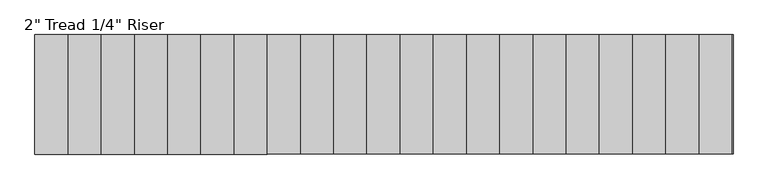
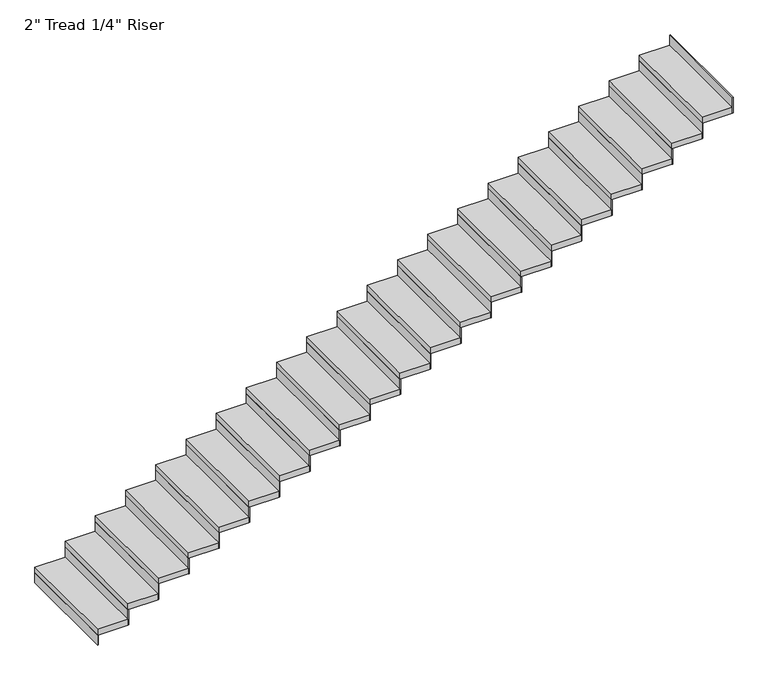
"""IFC4 building model written with IfcOpenShell, lengths in millimetres: stair flight geometry."""

from ifc_helpers import new_model, si_unit, frame, origin, origin_with_axes, place, context, project, spatial, polyline, outline, extrude, source, transform, mapped, element, save


def stair_flight_49b249d5(model_context):
    return source(origin(), model_context, "Body", "SweptSolid", [
        extrude(outline(polyline([(-14491.9069957, 34007.0395941), (-14498.2569957, 34007.0395941), (-14498.2569957, 34921.4395941), (-14491.9069957, 34921.4395941), (-14491.9069957, 34007.0395941)])), origin_with_axes(), (0.0, 0.0, 1.0), 87.7454545),
        extrude(outline(polyline([(-14244.2569957, 34921.4395941), (-14244.2569957, 34007.0395941), (-14498.2569957, 34007.0395941), (-14498.2569957, 34921.4395941), (-14244.2569957, 34921.4395941)])), frame((0.0, 0.0, 87.7454545), z_axis=(0.0, 0.0, 1.0), x_axis=(1.0, 0.0, 0.0)), (0.0, 0.0, 1.0), 50.8),
        extrude(outline(polyline([(-14237.9069957, 34007.0395941), (-14244.2569957, 34007.0395941), (-14244.2569957, 34921.4395941), (-14237.9069957, 34921.4395941), (-14237.9069957, 34007.0395941)])), frame((0.0, 0.0, 87.7454545), z_axis=(0.0, 0.0, 1.0), x_axis=(1.0, 0.0, 0.0)), (0.0, 0.0, 1.0), 138.5454545),
        extrude(outline(polyline([(-13990.2569957, 34921.4395941), (-13990.2569957, 34007.0395941), (-14244.2569957, 34007.0395941), (-14244.2569957, 34921.4395941), (-13990.2569957, 34921.4395941)])), frame((0.0, 0.0, 226.2909091), z_axis=(0.0, 0.0, 1.0), x_axis=(1.0, 0.0, 0.0)), (0.0, 0.0, 1.0), 50.8),
        extrude(outline(polyline([(-13983.9069957, 34007.0395941), (-13990.2569957, 34007.0395941), (-13990.2569957, 34921.4395941), (-13983.9069957, 34921.4395941), (-13983.9069957, 34007.0395941)])), frame((0.0, 0.0, 226.2909091), z_axis=(0.0, 0.0, 1.0), x_axis=(1.0, 0.0, 0.0)), (0.0, 0.0, 1.0), 138.5454545),
        extrude(outline(polyline([(-13736.2569957, 34921.4395941), (-13736.2569957, 34007.0395941), (-13990.2569957, 34007.0395941), (-13990.2569957, 34921.4395941), (-13736.2569957, 34921.4395941)])), frame((0.0, 0.0, 364.8363636), z_axis=(0.0, 0.0, 1.0), x_axis=(1.0, 0.0, 0.0)), (0.0, 0.0, 1.0), 50.8),
        extrude(outline(polyline([(-13729.9069957, 34007.0395941), (-13736.2569957, 34007.0395941), (-13736.2569957, 34921.4395941), (-13729.9069957, 34921.4395941), (-13729.9069957, 34007.0395941)])), frame((0.0, 0.0, 364.8363636), z_axis=(0.0, 0.0, 1.0), x_axis=(1.0, 0.0, 0.0)), (0.0, 0.0, 1.0), 138.5454545),
        extrude(outline(polyline([(-13482.2569957, 34921.4395941), (-13482.2569957, 34007.0395941), (-13736.2569957, 34007.0395941), (-13736.2569957, 34921.4395941), (-13482.2569957, 34921.4395941)])), frame((0.0, 0.0, 503.3818182), z_axis=(0.0, 0.0, 1.0), x_axis=(1.0, 0.0, 0.0)), (0.0, 0.0, 1.0), 50.8),
        extrude(outline(polyline([(-13475.9069957, 34007.0395941), (-13482.2569957, 34007.0395941), (-13482.2569957, 34921.4395941), (-13475.9069957, 34921.4395941), (-13475.9069957, 34007.0395941)])), frame((0.0, 0.0, 503.3818182), z_axis=(0.0, 0.0, 1.0), x_axis=(1.0, 0.0, 0.0)), (0.0, 0.0, 1.0), 138.5454545),
        extrude(outline(polyline([(-13228.2569957, 34921.4395941), (-13228.2569957, 34007.0395941), (-13482.2569957, 34007.0395941), (-13482.2569957, 34921.4395941), (-13228.2569957, 34921.4395941)])), frame((0.0, 0.0, 641.9272727), z_axis=(0.0, 0.0, 1.0), x_axis=(1.0, 0.0, 0.0)), (0.0, 0.0, 1.0), 50.8),
        extrude(outline(polyline([(-13221.9069957, 34007.0395941), (-13228.2569957, 34007.0395941), (-13228.2569957, 34921.4395941), (-13221.9069957, 34921.4395941), (-13221.9069957, 34007.0395941)])), frame((0.0, 0.0, 641.9272727), z_axis=(0.0, 0.0, 1.0), x_axis=(1.0, 0.0, 0.0)), (0.0, 0.0, 1.0), 138.5454545),
        extrude(outline(polyline([(-12974.2569957, 34921.4395941), (-12974.2569957, 34007.0395941), (-13228.2569957, 34007.0395941), (-13228.2569957, 34921.4395941), (-12974.2569957, 34921.4395941)])), frame((0.0, 0.0, 780.4727273), z_axis=(0.0, 0.0, 1.0), x_axis=(1.0, 0.0, 0.0)), (0.0, 0.0, 1.0), 50.8),
        extrude(outline(polyline([(-12967.9069957, 34007.0395941), (-12974.2569957, 34007.0395941), (-12974.2569957, 34921.4395941), (-12967.9069957, 34921.4395941), (-12967.9069957, 34007.0395941)])), frame((0.0, 0.0, 780.4727273), z_axis=(0.0, 0.0, 1.0), x_axis=(1.0, 0.0, 0.0)), (0.0, 0.0, 1.0), 138.5454545),
        extrude(outline(polyline([(-12720.2569957, 34921.4395941), (-12720.2569957, 34007.0395941), (-12974.2569957, 34007.0395941), (-12974.2569957, 34921.4395941), (-12720.2569957, 34921.4395941)])), frame((0.0, 0.0, 919.0181818), z_axis=(0.0, 0.0, 1.0), x_axis=(1.0, 0.0, 0.0)), (0.0, 0.0, 1.0), 50.8),
        extrude(outline(polyline([(-12713.9069957, 34007.0395941), (-12720.2569957, 34007.0395941), (-12720.2569957, 34921.4395941), (-12713.9069957, 34921.4395941), (-12713.9069957, 34007.0395941)])), frame((0.0, 0.0, 919.0181818), z_axis=(0.0, 0.0, 1.0), x_axis=(1.0, 0.0, 0.0)), (0.0, 0.0, 1.0), 138.5454545),
        extrude(outline(polyline([(-12466.2569957, 34921.4395941), (-12466.2569957, 34007.0395941), (-12720.2569957, 34007.0395941), (-12720.2569957, 34921.4395941), (-12466.2569957, 34921.4395941)])), frame((0.0, 0.0, 1057.5636364), z_axis=(0.0, 0.0, 1.0), x_axis=(1.0, 0.0, 0.0)), (0.0, 0.0, 1.0), 50.8),
        extrude(outline(polyline([(-12459.9069957, 34007.0395941), (-12466.2569957, 34007.0395941), (-12466.2569957, 34921.4395941), (-12459.9069957, 34921.4395941), (-12459.9069957, 34007.0395941)])), frame((0.0, 0.0, 1057.5636364), z_axis=(0.0, 0.0, 1.0), x_axis=(1.0, 0.0, 0.0)), (0.0, 0.0, 1.0), 138.5454545),
        extrude(outline(polyline([(-12212.2569957, 34921.4395941), (-12212.2569957, 34007.0395941), (-12466.2569957, 34007.0395941), (-12466.2569957, 34921.4395941), (-12212.2569957, 34921.4395941)])), frame((0.0, 0.0, 1196.1090909), z_axis=(0.0, 0.0, 1.0), x_axis=(1.0, 0.0, 0.0)), (0.0, 0.0, 1.0), 50.8),
        extrude(outline(polyline([(-12205.9069957, 34007.0395941), (-12212.2569957, 34007.0395941), (-12212.2569957, 34921.4395941), (-12205.9069957, 34921.4395941), (-12205.9069957, 34007.0395941)])), frame((0.0, 0.0, 1196.1090909), z_axis=(0.0, 0.0, 1.0), x_axis=(1.0, 0.0, 0.0)), (0.0, 0.0, 1.0), 138.5454545),
        extrude(outline(polyline([(-11958.2569957, 34921.4395941), (-11958.2569957, 34007.0395941), (-12212.2569957, 34007.0395941), (-12212.2569957, 34921.4395941), (-11958.2569957, 34921.4395941)])), frame((0.0, 0.0, 1334.6545455), z_axis=(0.0, 0.0, 1.0), x_axis=(1.0, 0.0, 0.0)), (0.0, 0.0, 1.0), 50.8),
        extrude(outline(polyline([(-11951.9069957, 34007.0395941), (-11958.2569957, 34007.0395941), (-11958.2569957, 34921.4395941), (-11951.9069957, 34921.4395941), (-11951.9069957, 34007.0395941)])), frame((0.0, 0.0, 1334.6545455), z_axis=(0.0, 0.0, 1.0), x_axis=(1.0, 0.0, 0.0)), (0.0, 0.0, 1.0), 138.5454545),
        extrude(outline(polyline([(-11704.2569957, 34921.4395941), (-11704.2569957, 34007.0395941), (-11958.2569957, 34007.0395941), (-11958.2569957, 34921.4395941), (-11704.2569957, 34921.4395941)])), frame((0.0, 0.0, 1473.2), z_axis=(0.0, 0.0, 1.0), x_axis=(1.0, 0.0, 0.0)), (0.0, 0.0, 1.0), 50.8),
        extrude(outline(polyline([(-11697.9069957, 34007.0395941), (-11704.2569957, 34007.0395941), (-11704.2569957, 34921.4395941), (-11697.9069957, 34921.4395941), (-11697.9069957, 34007.0395941)])), frame((0.0, 0.0, 1473.2), z_axis=(0.0, 0.0, 1.0), x_axis=(1.0, 0.0, 0.0)), (0.0, 0.0, 1.0), 138.5454545),
        extrude(outline(polyline([(-11450.2569957, 34921.4395941), (-11450.2569957, 34007.0395941), (-11704.2569957, 34007.0395941), (-11704.2569957, 34921.4395941), (-11450.2569957, 34921.4395941)])), frame((0.0, 0.0, 1611.7454545), z_axis=(0.0, 0.0, 1.0), x_axis=(1.0, 0.0, 0.0)), (0.0, 0.0, 1.0), 50.8),
        extrude(outline(polyline([(-11443.9069957, 34007.0395941), (-11450.2569957, 34007.0395941), (-11450.2569957, 34921.4395941), (-11443.9069957, 34921.4395941), (-11443.9069957, 34007.0395941)])), frame((0.0, 0.0, 1611.7454545), z_axis=(0.0, 0.0, 1.0), x_axis=(1.0, 0.0, 0.0)), (0.0, 0.0, 1.0), 138.5454545),
        extrude(outline(polyline([(-11196.2569957, 34921.4395941), (-11196.2569957, 34007.0395941), (-11450.2569957, 34007.0395941), (-11450.2569957, 34921.4395941), (-11196.2569957, 34921.4395941)])), frame((0.0, 0.0, 1750.2909091), z_axis=(0.0, 0.0, 1.0), x_axis=(1.0, 0.0, 0.0)), (0.0, 0.0, 1.0), 50.8),
        extrude(outline(polyline([(-11189.9069957, 34007.0395941), (-11196.2569957, 34007.0395941), (-11196.2569957, 34921.4395941), (-11189.9069957, 34921.4395941), (-11189.9069957, 34007.0395941)])), frame((0.0, 0.0, 1750.2909091), z_axis=(0.0, 0.0, 1.0), x_axis=(1.0, 0.0, 0.0)), (0.0, 0.0, 1.0), 138.5454545),
        extrude(outline(polyline([(-10942.2569957, 34921.4395941), (-10942.2569957, 34007.0395941), (-11196.2569957, 34007.0395941), (-11196.2569957, 34921.4395941), (-10942.2569957, 34921.4395941)])), frame((0.0, 0.0, 1888.8363636), z_axis=(0.0, 0.0, 1.0), x_axis=(1.0, 0.0, 0.0)), (0.0, 0.0, 1.0), 50.8),
        extrude(outline(polyline([(-10935.9069957, 34007.0395941), (-10942.2569957, 34007.0395941), (-10942.2569957, 34921.4395941), (-10935.9069957, 34921.4395941), (-10935.9069957, 34007.0395941)])), frame((0.0, 0.0, 1888.8363636), z_axis=(0.0, 0.0, 1.0), x_axis=(1.0, 0.0, 0.0)), (0.0, 0.0, 1.0), 138.5454545),
        extrude(outline(polyline([(-10688.2569957, 34921.4395941), (-10688.2569957, 34007.0395941), (-10942.2569957, 34007.0395941), (-10942.2569957, 34921.4395941), (-10688.2569957, 34921.4395941)])), frame((0.0, 0.0, 2027.3818182), z_axis=(0.0, 0.0, 1.0), x_axis=(1.0, 0.0, 0.0)), (0.0, 0.0, 1.0), 50.8),
        extrude(outline(polyline([(-10681.9069957, 34007.0395941), (-10688.2569957, 34007.0395941), (-10688.2569957, 34921.4395941), (-10681.9069957, 34921.4395941), (-10681.9069957, 34007.0395941)])), frame((0.0, 0.0, 2027.3818182), z_axis=(0.0, 0.0, 1.0), x_axis=(1.0, 0.0, 0.0)), (0.0, 0.0, 1.0), 138.5454545),
        extrude(outline(polyline([(-10434.2569957, 34921.4395941), (-10434.2569957, 34007.0395941), (-10688.2569957, 34007.0395941), (-10688.2569957, 34921.4395941), (-10434.2569957, 34921.4395941)])), frame((0.0, 0.0, 2165.9272727), z_axis=(0.0, 0.0, 1.0), x_axis=(1.0, 0.0, 0.0)), (0.0, 0.0, 1.0), 50.8),
        extrude(outline(polyline([(-10427.9069957, 34007.0395941), (-10434.2569957, 34007.0395941), (-10434.2569957, 34921.4395941), (-10427.9069957, 34921.4395941), (-10427.9069957, 34007.0395941)])), frame((0.0, 0.0, 2165.9272727), z_axis=(0.0, 0.0, 1.0), x_axis=(1.0, 0.0, 0.0)), (0.0, 0.0, 1.0), 138.5454545),
        extrude(outline(polyline([(-10180.2569957, 34921.4395941), (-10180.2569957, 34007.0395941), (-10434.2569957, 34007.0395941), (-10434.2569957, 34921.4395941), (-10180.2569957, 34921.4395941)])), frame((0.0, 0.0, 2304.4727273), z_axis=(0.0, 0.0, 1.0), x_axis=(1.0, 0.0, 0.0)), (0.0, 0.0, 1.0), 50.8),
        extrude(outline(polyline([(-10173.9069957, 34007.0395941), (-10180.2569957, 34007.0395941), (-10180.2569957, 34921.4395941), (-10173.9069957, 34921.4395941), (-10173.9069957, 34007.0395941)])), frame((0.0, 0.0, 2304.4727273), z_axis=(0.0, 0.0, 1.0), x_axis=(1.0, 0.0, 0.0)), (0.0, 0.0, 1.0), 138.5454545),
        extrude(outline(polyline([(-9926.2569957, 34921.4395941), (-9926.2569957, 34007.0395941), (-10180.2569957, 34007.0395941), (-10180.2569957, 34921.4395941), (-9926.2569957, 34921.4395941)])), frame((0.0, 0.0, 2443.0181818), z_axis=(0.0, 0.0, 1.0), x_axis=(1.0, 0.0, 0.0)), (0.0, 0.0, 1.0), 50.8),
        extrude(outline(polyline([(-9919.9069957, 34007.0395941), (-9926.2569957, 34007.0395941), (-9926.2569957, 34921.4395941), (-9919.9069957, 34921.4395941), (-9919.9069957, 34007.0395941)])), frame((0.0, 0.0, 2443.0181818), z_axis=(0.0, 0.0, 1.0), x_axis=(1.0, 0.0, 0.0)), (0.0, 0.0, 1.0), 138.5454545),
        extrude(outline(polyline([(-9672.2569957, 34921.4395941), (-9672.2569957, 34007.0395941), (-9926.2569957, 34007.0395941), (-9926.2569957, 34921.4395941), (-9672.2569957, 34921.4395941)])), frame((0.0, 0.0, 2581.5636364), z_axis=(0.0, 0.0, 1.0), x_axis=(1.0, 0.0, 0.0)), (0.0, 0.0, 1.0), 50.8),
        extrude(outline(polyline([(-9665.9069957, 34007.0395941), (-9672.2569957, 34007.0395941), (-9672.2569957, 34921.4395941), (-9665.9069957, 34921.4395941), (-9665.9069957, 34007.0395941)])), frame((0.0, 0.0, 2581.5636364), z_axis=(0.0, 0.0, 1.0), x_axis=(1.0, 0.0, 0.0)), (0.0, 0.0, 1.0), 138.5454545),
        extrude(outline(polyline([(-9418.2569957, 34921.4395941), (-9418.2569957, 34007.0395941), (-9672.2569957, 34007.0395941), (-9672.2569957, 34921.4395941), (-9418.2569957, 34921.4395941)])), frame((0.0, 0.0, 2720.1090909), z_axis=(0.0, 0.0, 1.0), x_axis=(1.0, 0.0, 0.0)), (0.0, 0.0, 1.0), 50.8),
        extrude(outline(polyline([(-9411.9069957, 34007.0395941), (-9418.2569957, 34007.0395941), (-9418.2569957, 34921.4395941), (-9411.9069957, 34921.4395941), (-9411.9069957, 34007.0395941)])), frame((0.0, 0.0, 2720.1090909), z_axis=(0.0, 0.0, 1.0), x_axis=(1.0, 0.0, 0.0)), (0.0, 0.0, 1.0), 138.5454545),
        extrude(outline(polyline([(-9157.9069957, 34007.0395941), (-9164.2569957, 34007.0395941), (-9164.2569957, 34921.4395941), (-9157.9069957, 34921.4395941), (-9157.9069957, 34007.0395941)])), frame((0.0, 0.0, 2858.6545455), z_axis=(0.0, 0.0, 1.0), x_axis=(1.0, 0.0, 0.0)), (0.0, 0.0, 1.0), 138.5454545),
        extrude(outline(polyline([(-9164.2569957, 34921.4395941), (-9164.2569957, 34007.0395941), (-9418.2569957, 34007.0395941), (-9418.2569957, 34921.4395941), (-9164.2569957, 34921.4395941)])), frame((0.0, 0.0, 2858.6545455), z_axis=(0.0, 0.0, 1.0), x_axis=(1.0, 0.0, 0.0)), (0.0, 0.0, 1.0), 50.8),
    ])


if __name__ == "__main__":
    model = new_model("IFC4")
    model_context = context("Model", 3, world=origin())
    ifc_project = project(units=[si_unit("LENGTHUNIT", "METRE", prefix="MILLI")], contexts=[model_context])
    site = spatial("IfcSite", under=ifc_project)
    building = spatial("IfcBuilding", under=site)
    placement = place(None, origin())
    stair_flight_shape = stair_flight_49b249d5(model_context)
    element("IfcStairFlight", 1, ObjectType="2\" Tread 1/4\" Riser", at=placement, inside=building, context=model_context, shape_type="MappedRepresentation", body=[
        mapped(stair_flight_shape, transform((0.0, 0.0, 0.0), x_axis=(1.0, 0.0, 0.0), y_axis=(0.0, 1.0, 0.0), z_axis=(0.0, 0.0, 1.0))),
    ])
    save(model, "model.ifc")
